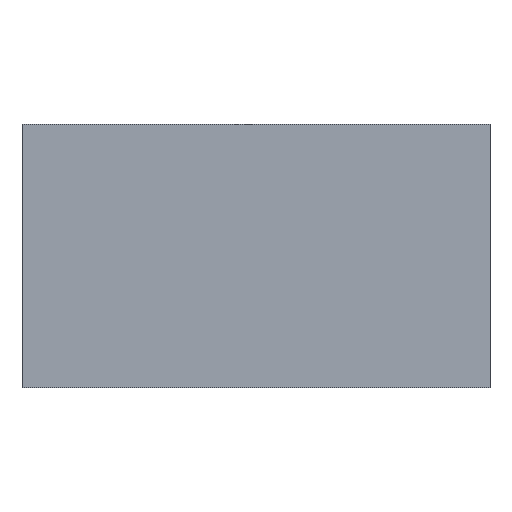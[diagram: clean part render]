
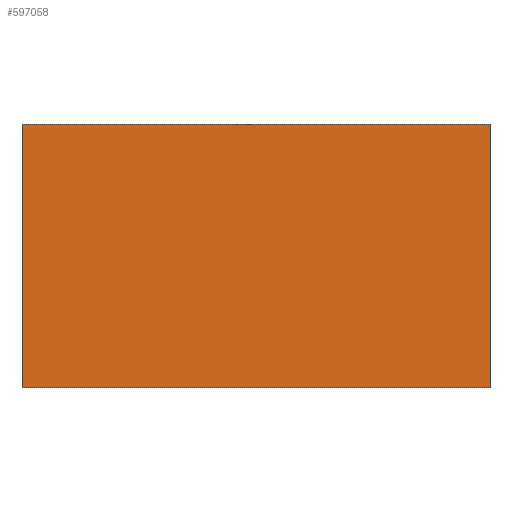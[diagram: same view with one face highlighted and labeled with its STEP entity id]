
A CAD part, top view. The second image highlights one B-rep face of the part: STEP entity #597058.
In plain terms, the highlighted planar face has unit normal (0, 0, 1).
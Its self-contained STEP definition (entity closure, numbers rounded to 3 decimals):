
#43 = PLANE('',#44);
#44 = AXIS2_PLACEMENT_3D('',#45,#46,#47);
#45 = CARTESIAN_POINT('',(-32.,-21.,-14.));
#46 = DIRECTION('',(1.,0.,0.));
#47 = DIRECTION('',(0.,0.,1.));
#69 = PLANE('',#70);
#70 = AXIS2_PLACEMENT_3D('',#71,#72,#73);
#71 = CARTESIAN_POINT('',(-32.,-21.,-14.));
#72 = DIRECTION('',(0.,1.,0.));
#73 = DIRECTION('',(0.,0.,1.));
#95 = PLANE('',#96);
#96 = AXIS2_PLACEMENT_3D('',#97,#98,#99);
#97 = CARTESIAN_POINT('',(32.,-21.,-14.));
#98 = DIRECTION('',(1.,0.,0.));
#99 = DIRECTION('',(0.,0.,1.));
#119 = PLANE('',#120);
#120 = AXIS2_PLACEMENT_3D('',#121,#122,#123);
#121 = CARTESIAN_POINT('',(-32.,15.,-14.));
#122 = DIRECTION('',(0.,1.,0.));
#123 = DIRECTION('',(0.,0.,1.));
#217112 = VERTEX_POINT('',#217113);
#217113 = CARTESIAN_POINT('',(-32.,-21.,-12.4));
#217136 = VERTEX_POINT('',#217137);
#217137 = CARTESIAN_POINT('',(-32.,15.,-12.4));
#217158 = EDGE_CURVE('',#217112,#217136,#217159,.T.);
#217159 = SURFACE_CURVE('',#217160,(#217164,#217170),.PCURVE_S1.);
#217160 = LINE('',#217161,#217162);
#217161 = CARTESIAN_POINT('',(-32.,-43.9,-12.4));
#217162 = VECTOR('',#217163,1.);
#217163 = DIRECTION('',(0.,1.,0.));
#217164 = PCURVE('',#43,#217165);
#217165 = DEFINITIONAL_REPRESENTATION('',(#217166),#217169);
#217166 = B_SPLINE_CURVE_WITH_KNOTS('',1,(#217167,#217168),
  .UNSPECIFIED.,.F.,.F.,(2,2),(22.9,58.9),.PIECEWISE_BEZIER_KNOTS.);
#217167 = CARTESIAN_POINT('',(1.6,0.));
#217168 = CARTESIAN_POINT('',(1.6,-36.));
#217169 = ( GEOMETRIC_REPRESENTATION_CONTEXT(2) 
PARAMETRIC_REPRESENTATION_CONTEXT() REPRESENTATION_CONTEXT('2D SPACE',''
  ) );
#217170 = PCURVE('',#217171,#217176);
#217171 = PLANE('',#217172);
#217172 = AXIS2_PLACEMENT_3D('',#217173,#217174,#217175);
#217173 = CARTESIAN_POINT('',(-42.8,-66.8,-12.4));
#217174 = DIRECTION('',(0.,0.,1.));
#217175 = DIRECTION('',(1.,0.,-0.));
#217176 = DEFINITIONAL_REPRESENTATION('',(#217177),#217180);
#217177 = B_SPLINE_CURVE_WITH_KNOTS('',1,(#217178,#217179),
  .UNSPECIFIED.,.F.,.F.,(2,2),(22.9,58.9),.PIECEWISE_BEZIER_KNOTS.);
#217178 = CARTESIAN_POINT('',(10.8,45.8));
#217179 = CARTESIAN_POINT('',(10.8,81.8));
#217180 = ( GEOMETRIC_REPRESENTATION_CONTEXT(2) 
PARAMETRIC_REPRESENTATION_CONTEXT() REPRESENTATION_CONTEXT('2D SPACE',''
  ) );
#217186 = VERTEX_POINT('',#217187);
#217187 = CARTESIAN_POINT('',(32.,15.,-12.4));
#217210 = EDGE_CURVE('',#217186,#217136,#217211,.T.);
#217211 = SURFACE_CURVE('',#217212,(#217216,#217222),.PCURVE_S1.);
#217212 = LINE('',#217213,#217214);
#217213 = CARTESIAN_POINT('',(-37.4,15.,-12.4));
#217214 = VECTOR('',#217215,1.);
#217215 = DIRECTION('',(-1.,0.,0.));
#217216 = PCURVE('',#119,#217217);
#217217 = DEFINITIONAL_REPRESENTATION('',(#217218),#217221);
#217218 = B_SPLINE_CURVE_WITH_KNOTS('',1,(#217219,#217220),
  .UNSPECIFIED.,.F.,.F.,(2,2),(-69.4,-5.4),.PIECEWISE_BEZIER_KNOTS.);
#217219 = CARTESIAN_POINT('',(1.6,64.));
#217220 = CARTESIAN_POINT('',(1.6,0.));
#217221 = ( GEOMETRIC_REPRESENTATION_CONTEXT(2) 
PARAMETRIC_REPRESENTATION_CONTEXT() REPRESENTATION_CONTEXT('2D SPACE',''
  ) );
#217222 = PCURVE('',#217171,#217223);
#217223 = DEFINITIONAL_REPRESENTATION('',(#217224),#217227);
#217224 = B_SPLINE_CURVE_WITH_KNOTS('',1,(#217225,#217226),
  .UNSPECIFIED.,.F.,.F.,(2,2),(-69.4,-5.4),.PIECEWISE_BEZIER_KNOTS.);
#217225 = CARTESIAN_POINT('',(74.8,81.8));
#217226 = CARTESIAN_POINT('',(10.8,81.8));
#217227 = ( GEOMETRIC_REPRESENTATION_CONTEXT(2) 
PARAMETRIC_REPRESENTATION_CONTEXT() REPRESENTATION_CONTEXT('2D SPACE',''
  ) );
#217233 = VERTEX_POINT('',#217234);
#217234 = CARTESIAN_POINT('',(32.,-21.,-12.4));
#217257 = EDGE_CURVE('',#217233,#217186,#217258,.T.);
#217258 = SURFACE_CURVE('',#217259,(#217263,#217269),.PCURVE_S1.);
#217259 = LINE('',#217260,#217261);
#217260 = CARTESIAN_POINT('',(32.,-43.9,-12.4));
#217261 = VECTOR('',#217262,1.);
#217262 = DIRECTION('',(0.,1.,0.));
#217263 = PCURVE('',#95,#217264);
#217264 = DEFINITIONAL_REPRESENTATION('',(#217265),#217268);
#217265 = B_SPLINE_CURVE_WITH_KNOTS('',1,(#217266,#217267),
  .UNSPECIFIED.,.F.,.F.,(2,2),(22.9,58.9),.PIECEWISE_BEZIER_KNOTS.);
#217266 = CARTESIAN_POINT('',(1.6,0.));
#217267 = CARTESIAN_POINT('',(1.6,-36.));
#217268 = ( GEOMETRIC_REPRESENTATION_CONTEXT(2) 
PARAMETRIC_REPRESENTATION_CONTEXT() REPRESENTATION_CONTEXT('2D SPACE',''
  ) );
#217269 = PCURVE('',#217171,#217270);
#217270 = DEFINITIONAL_REPRESENTATION('',(#217271),#217274);
#217271 = B_SPLINE_CURVE_WITH_KNOTS('',1,(#217272,#217273),
  .UNSPECIFIED.,.F.,.F.,(2,2),(22.9,58.9),.PIECEWISE_BEZIER_KNOTS.);
#217272 = CARTESIAN_POINT('',(74.8,45.8));
#217273 = CARTESIAN_POINT('',(74.8,81.8));
#217274 = ( GEOMETRIC_REPRESENTATION_CONTEXT(2) 
PARAMETRIC_REPRESENTATION_CONTEXT() REPRESENTATION_CONTEXT('2D SPACE',''
  ) );
#217282 = EDGE_CURVE('',#217233,#217112,#217283,.T.);
#217283 = SURFACE_CURVE('',#217284,(#217288,#217294),.PCURVE_S1.);
#217284 = LINE('',#217285,#217286);
#217285 = CARTESIAN_POINT('',(-37.4,-21.,-12.4));
#217286 = VECTOR('',#217287,1.);
#217287 = DIRECTION('',(-1.,0.,0.));
#217288 = PCURVE('',#69,#217289);
#217289 = DEFINITIONAL_REPRESENTATION('',(#217290),#217293);
#217290 = B_SPLINE_CURVE_WITH_KNOTS('',1,(#217291,#217292),
  .UNSPECIFIED.,.F.,.F.,(2,2),(-69.4,-5.4),.PIECEWISE_BEZIER_KNOTS.);
#217291 = CARTESIAN_POINT('',(1.6,64.));
#217292 = CARTESIAN_POINT('',(1.6,0.));
#217293 = ( GEOMETRIC_REPRESENTATION_CONTEXT(2) 
PARAMETRIC_REPRESENTATION_CONTEXT() REPRESENTATION_CONTEXT('2D SPACE',''
  ) );
#217294 = PCURVE('',#217171,#217295);
#217295 = DEFINITIONAL_REPRESENTATION('',(#217296),#217299);
#217296 = B_SPLINE_CURVE_WITH_KNOTS('',1,(#217297,#217298),
  .UNSPECIFIED.,.F.,.F.,(2,2),(-69.4,-5.4),.PIECEWISE_BEZIER_KNOTS.);
#217297 = CARTESIAN_POINT('',(74.8,45.8));
#217298 = CARTESIAN_POINT('',(10.8,45.8));
#217299 = ( GEOMETRIC_REPRESENTATION_CONTEXT(2) 
PARAMETRIC_REPRESENTATION_CONTEXT() REPRESENTATION_CONTEXT('2D SPACE',''
  ) );
#597058 = ADVANCED_FACE('',(#597059),#217171,.T.);
#597059 = FACE_BOUND('',#597060,.T.);
#597060 = EDGE_LOOP('',(#597061,#597062,#597063,#597064));
#597061 = ORIENTED_EDGE('',*,*,#217158,.F.);
#597062 = ORIENTED_EDGE('',*,*,#217282,.F.);
#597063 = ORIENTED_EDGE('',*,*,#217257,.T.);
#597064 = ORIENTED_EDGE('',*,*,#217210,.T.);
